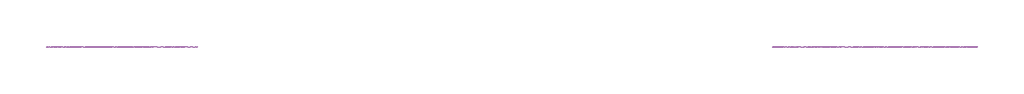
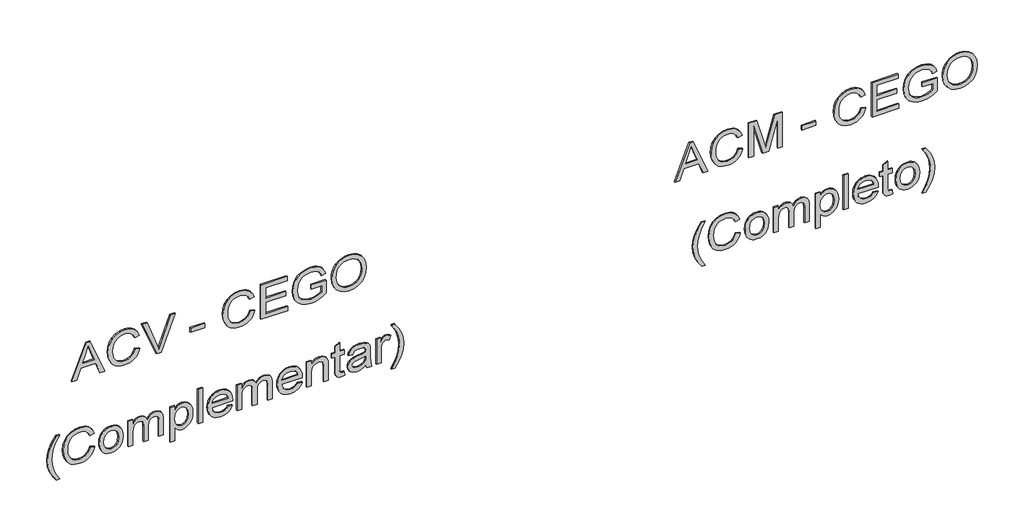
# One storey, part 3 of 12: 2 proxies.
"""IFC4 building model written with IfcOpenShell, lengths in millimetres."""

from ifc_helpers import new_model, si_unit, frame, origin, place, context, project, spatial, polyline, outline, extrude, element, save

model = new_model("IFC4")

# Units and contexts
model_context = context("Model", 3, world=origin())
ifc_project = project(units=[si_unit("LENGTHUNIT", "METRE", prefix="MILLI")], contexts=[model_context])

# Site, building, storey
site = spatial("IfcSite", under=ifc_project)
building = spatial("IfcBuilding", under=site)
storey = spatial("IfcBuildingStorey", under=building, Name="02 - Marelli - Planta Baixa - Painéis Cego", Elevation=12000.0)

# Proxies
placement = place(None, origin())
element("IfcBuildingElementProxy", 1, Name="300mm Arial", ObjectType="300mm Arial", at=placement, inside=storey, context=model_context, shape_type="SweptSolid", body=[
    extrude(outline(polyline([(17965.9244535, 7599.1298393), (17965.9244535, 7638.9346711), (18060.1022443, 7673.3684259), (18060.1022443, 7797.491811), (17965.9244535, 7831.9991422), (17965.9244535, 7871.8039741), (18267.293384, 7751.5065617), (18267.293384, 7719.4272517), (17965.9244535, 7599.1298393)]), holes=[polyline([(18097.7733606, 7687.2007889), (18178.3395176, 7716.7049249), (18229.6222677, 7735.4669067), (18171.8647944, 7756.5833332), (18097.7733606, 7783.7330244), (18097.7733606, 7687.2007889)])]), frame((0.0, 8778.3159498, 0.0), z_axis=(0.0, 1.0, 0.0), x_axis=(0.0, 0.0, 1.0)), (0.0, 0.0, 1.0), 10.0),
    extrude(outline(polyline([(18073.0516905, 8123.9502936), (18040.7884396, 8111.7642025), (18017.5750857, 8091.9813482), (18003.5587816, 8065.7789531), (17998.8866803, 8034.3342395), (18002.3171799, 8007.3592922), (18012.6086787, 7982.3525136), (18029.8347531, 7961.4936045), (18054.0689796, 7946.9622657), (18084.1617268, 7938.4366005), (18118.9633635, 7935.594712), (18147.3822477, 7937.9951421), (18174.9550032, 7945.1964321), (18199.3455795, 7958.3206223), (18218.2179258, 7978.4897527), (18230.3028494, 8005.0692268), (18234.3311572, 8037.4244483), (18230.6983225, 8065.4938445), (18219.7998184, 8088.3393164), (18200.9550632, 8106.1815932), (18173.4834752, 8119.241404), (18182.4597959, 8156.9125203), (18220.278065, 8140.2750571), (18235.6003501, 8128.4729428), (18248.5314022, 8114.3485735), (18258.7999084, 8098.1686635), (18266.1345557, 8080.1999273), (18272.0022735, 8038.8959763), (18267.4681279, 8001.040919), (18253.8656912, 7966.4967996), (18231.526057, 7937.3697427), (18200.7803193, 7915.7658725), (18162.8332915, 7902.3841649), (18118.8897871, 7897.9235957), (18077.2271512, 7901.8691301), (18038.3236302, 7913.7057333), (18005.2326447, 7933.0931145), (17981.0076153, 7959.6909827), (17966.1635768, 7994.3914519), (17961.215564, 8038.0866359), (17962.8503396, 8060.5090435), (17967.7546665, 8081.1288293), (17975.9285445, 8099.9459934), (17987.3719739, 8116.9605357), (18001.9286046, 8131.8367638), (18019.4420868, 8144.2389856), (18039.9124206, 8154.1672009), (18063.3396059, 8161.6214099), (18073.0516905, 8123.9502936)])), frame((0.0, 8778.3159498, 0.0), z_axis=(0.0, 1.0, 0.0), x_axis=(0.0, 0.0, 1.0)), (0.0, 0.0, 1.0), 10.0),
    extrude(outline(polyline([(17965.9244535, 8302.4466376), (17965.9244535, 8341.3685527), (18267.293384, 8456.2213116), (18267.293384, 8415.9014449), (18050.1694304, 8335.4088644), (18001.2411251, 8319.3692094), (18050.1694304, 8303.1088252), (18267.293384, 8222.8369739), (18267.293384, 8182.5171072), (17965.9244535, 8302.4466376)])), frame((0.0, 8778.3159498, 0.0), z_axis=(0.0, 1.0, 0.0), x_axis=(0.0, 0.0, 1.0)), (0.0, 0.0, 1.0), 10.0),
    extrude(outline(polyline([(8703.1437068, 8778.3159498), (8585.4214683, 8778.3159498), (8585.4214683, 8788.3159498), (8703.1437068, 8788.3159498), (8703.1437068, 8778.3159498)])), frame((0.0, 0.0, 18055.3933548), z_axis=(0.0, 0.0, 1.0), x_axis=(1.0, 0.0, 0.0)), (0.0, 0.0, 1.0), 37.6711163),
    extrude(outline(polyline([(18073.0516905, 9079.8548698), (18040.7884396, 9067.6687787), (18017.5750857, 9047.8859245), (18003.5587816, 9021.6835293), (17998.8866803, 8990.2388158), (18002.3171799, 8963.2638685), (18012.6086787, 8938.2570899), (18029.8347531, 8917.3981808), (18054.0689796, 8902.866842), (18084.1617268, 8894.3411767), (18118.9633635, 8891.4992883), (18147.3822477, 8893.8997183), (18174.9550032, 8901.1010084), (18199.3455795, 8914.2251986), (18218.2179258, 8934.3943289), (18230.3028494, 8960.9738031), (18234.3311572, 8993.3290246), (18230.6983225, 9021.3984208), (18219.7998184, 9044.2438927), (18200.9550632, 9062.0861695), (18173.4834752, 9075.1459803), (18182.4597959, 9112.8170966), (18220.278065, 9096.1796334), (18235.6003501, 9084.3775191), (18248.5314022, 9070.2531498), (18258.7999084, 9054.0732398), (18266.1345557, 9036.1045036), (18272.0022735, 8994.8005526), (18267.4681279, 8956.9454952), (18253.8656912, 8922.4013759), (18231.526057, 8893.2743189), (18200.7803193, 8871.6704488), (18162.8332915, 8858.2887412), (18118.8897871, 8853.828172), (18077.2271512, 8857.7737064), (18038.3236302, 8869.6103096), (18005.2326447, 8888.9976907), (17981.0076153, 8915.595559), (17966.1635768, 8950.2960282), (17961.215564, 8993.9912122), (17962.8503396, 9016.4136198), (17967.7546665, 9037.0334056), (17975.9285445, 9055.8505697), (17987.3719739, 9072.8651119), (18001.9286046, 9087.7413401), (18019.4420868, 9100.1435619), (18039.9124206, 9110.0717772), (18063.3396059, 9117.5259861), (18073.0516905, 9079.8548698)])), frame((0.0, 8778.3159498, 0.0), z_axis=(0.0, 1.0, 0.0), x_axis=(0.0, 0.0, 1.0)), (0.0, 0.0, 1.0), 10.0),
    extrude(outline(polyline([(17965.9244535, 9169.3237711), (17965.9244535, 9390.6415794), (18003.5955698, 9390.6415794), (18003.5955698, 9206.9948874), (18102.4822501, 9206.9948874), (18102.4822501, 9376.5149107), (18140.1533665, 9376.5149107), (18140.1533665, 9206.9948874), (18229.6222677, 9206.9948874), (18229.6222677, 9385.9326898), (18267.293384, 9385.9326898), (18267.293384, 9169.3237711), (17965.9244535, 9169.3237711)])), frame((0.0, 8778.3159498, 0.0), z_axis=(0.0, 1.0, 0.0), x_axis=(0.0, 0.0, 1.0)), (0.0, 0.0, 1.0), 10.0),
    extrude(outline(polyline([(18083.646692, 9588.41494), (18083.646692, 9673.1749517), (18029.2001567, 9673.1749517), (18018.55917, 9657.1260996), (18008.5619768, 9635.0255888), (18001.3055044, 9609.5773517), (17998.8866803, 9583.4853212), (18002.0964507, 9553.9352), (18011.7257619, 9526.0589418), (18027.967752, 9502.2385826), (18051.015559, 9484.8561583), (18080.6576508, 9474.2335657), (18116.6824952, 9470.6927015), (18147.4006418, 9473.6357575), (18175.83792, 9482.4649254), (18204.8638094, 9501.8523065), (18216.8015801, 9516.2916748), (18226.2009651, 9534.6673805), (18232.2986092, 9556.89665), (18234.3311572, 9582.89671), (18232.445762, 9605.1075855), (18226.7895763, 9625.2399277), (18217.9971966, 9642.1257113), (18206.7032194, 9654.5969109), (18191.7212251, 9664.023887), (18171.8647944, 9671.7770001), (18181.6504555, 9706.5050604), (18209.4899255, 9696.9125374), (18231.4984659, 9683.7331649), (18248.494614, 9665.9184793), (18261.2969075, 9642.4200169), (18269.325932, 9614.5161675), (18272.0022735, 9583.4853212), (18267.3853545, 9541.21568), (18253.5345974, 9504.1699631), (18230.1832877, 9473.7553191), (18197.0647111, 9451.3788968), (18157.581776, 9437.6109131), (18115.1373908, 9433.0215852), (18072.9965082, 9437.6293072), (18035.0126922, 9451.4524732), (18003.3472495, 9474.3163392), (17980.1614867, 9506.0461612), (17965.9520447, 9544.2415094), (17961.215564, 9586.5019536), (17964.1954082, 9618.847978), (17973.1349406, 9650.4030562), (17987.9789791, 9681.0936116), (18008.6723414, 9710.846068), (18121.3178083, 9710.846068), (18121.3178083, 9588.41494), (18083.646692, 9588.41494)])), frame((0.0, 8778.3159498, 0.0), z_axis=(0.0, 1.0, 0.0), x_axis=(0.0, 0.0, 1.0)), (0.0, 0.0, 1.0), 10.0),
    extrude(outline(polyline([(18112.6357932, 9757.9349633), (18074.0909572, 9762.2391827), (18037.6246544, 9775.1518407), (18005.9316205, 9796.41542), (17981.7065911, 9825.7724033), (17966.3383208, 9861.4201686), (17961.215564, 9901.5560943), (17965.8508771, 9939.3651663), (17979.7568166, 9974.5070939), (18002.6758649, 10004.4710824), (18034.3505046, 10026.7463372), (18072.8125672, 10040.5695032), (18116.093884, 10045.1772252), (18158.8049836, 10040.7994294), (18196.7336173, 10027.6660422), (18228.3530748, 10006.1817337), (18252.1366458, 9976.7511741), (18267.0358666, 9941.3057438), (18272.0022735, 9901.7768235), (18269.3581217, 9871.4863397), (18261.4256662, 9844.1113207), (18248.204907, 9819.6517666), (18229.6958441, 9798.1076772), (18206.5146799, 9780.5321149), (18179.2776166, 9767.9781418), (18147.9846544, 9760.445758), (18112.6357932, 9757.9349633)]), holes=[polyline([(18112.2679112, 9795.6060797), (18142.8044161, 9797.5696498), (18168.6366299, 9803.4603602), (18189.7645528, 9813.278211), (18206.1881846, 9827.023202), (18218.5007351, 9843.4905198), (18227.2954141, 9861.4753509), (18232.5722214, 9880.9776952), (18234.3311572, 9901.9975527), (18230.6799284, 9931.1613978), (18219.726242, 9957.2902165), (18202.1322856, 9978.949269), (18178.5602467, 9994.7038154), (18149.7366924, 10004.3055355), (18116.3881896, 10007.5061089), (18089.8501021, 10005.6368085), (18066.5217851, 10000.0289073), (18046.4032385, 9990.6824054), (18029.4944623, 9977.5973027), (18016.1035577, 9961.6151292), (18006.5386258, 9943.5774152), (18000.7996667, 9923.4841604), (17998.8866803, 9901.3353651), (18000.7812726, 9879.5590502), (18006.4650494, 9859.7003203), (18015.9380108, 9841.7591752), (18029.2001567, 9825.7356151), (18045.759445, 9812.5539433), (18065.1238335, 9803.1384635), (18087.2933223, 9797.4891756), (18112.2679112, 9795.6060797)])]), frame((0.0, 8778.3159498, 0.0), z_axis=(0.0, 1.0, 0.0), x_axis=(0.0, 0.0, 1.0)), (0.0, 0.0, 1.0), 10.0),
    extrude(outline(polyline([(17149.3155348, 7469.4146478), (17149.3155348, 7497.667985), (17197.5540614, 7468.8260366), (17245.8109821, 7448.2246448), (17294.0862969, 7435.8638098), (17342.3800058, 7431.7435314), (17380.2534572, 7434.1163703), (17417.9429677, 7441.2348869), (17475.7740173, 7462.4248898), (17535.4444769, 7497.667985), (17535.4444769, 7469.4146478), (17484.934279, 7434.7233756), (17434.2033518, 7410.4063757), (17389.4137189, 7398.1559053), (17342.600735, 7394.0724151), (17289.2210575, 7399.5354628), (17237.68079, 7415.9246057), (17190.2791949, 7440.2232114), (17149.3155348, 7469.4146478)])), frame((0.0, 8778.3159498, 0.0), z_axis=(0.0, 1.0, 0.0), x_axis=(0.0, 0.0, 1.0)), (0.0, 0.0, 1.0), 10.0),
    extrude(outline(polyline([(17341.2027835, 7751.94802), (17308.9395325, 7739.761929), (17285.7261786, 7719.9790747), (17271.7098746, 7693.7766796), (17267.0377732, 7662.331966), (17270.4682728, 7635.3570187), (17280.7597717, 7610.3502401), (17297.9858461, 7589.491331), (17322.2200725, 7574.9599922), (17352.3128197, 7566.4343269), (17387.1144565, 7563.5924385), (17415.5333406, 7565.9928685), (17443.1060961, 7573.1941586), (17467.4966724, 7586.3183488), (17486.3690188, 7606.4874792), (17498.4539423, 7633.0669533), (17502.4822501, 7665.4221748), (17498.8494154, 7693.491571), (17487.9509113, 7716.3370429), (17469.1061561, 7734.1793197), (17441.6345681, 7747.2391305), (17450.6108888, 7784.9102468), (17488.4291579, 7768.2727836), (17503.751443, 7756.4706693), (17516.6824952, 7742.3463), (17526.9510013, 7726.16639), (17534.2856486, 7708.1976538), (17540.1533665, 7666.8937028), (17535.6192209, 7629.0386455), (17522.0167841, 7594.4945261), (17499.6771499, 7565.3674691), (17468.9314122, 7543.763599), (17430.9843844, 7530.3818914), (17387.0408801, 7525.9213222), (17345.3782441, 7529.8668566), (17306.4747231, 7541.7034598), (17273.3837376, 7561.0908409), (17249.1587083, 7587.6887092), (17234.3146698, 7622.3891784), (17229.3666569, 7666.0843624), (17231.0014325, 7688.50677), (17235.9057594, 7709.1265558), (17244.0796375, 7727.9437199), (17255.5230668, 7744.9582621), (17270.0796975, 7759.8344903), (17287.5931797, 7772.2367121), (17308.0635135, 7782.1649274), (17331.4906988, 7789.6191364), (17341.2027835, 7751.94802)])), frame((0.0, 8778.3159498, 0.0), z_axis=(0.0, 1.0, 0.0), x_axis=(0.0, 0.0, 1.0)), (0.0, 0.0, 1.0), 10.0),
    extrude(outline(polyline([(17344.7344506, 7827.2902527), (17318.4124939, 7828.9986047), (17295.3646869, 7834.1236607), (17275.5910296, 7842.6654208), (17259.0915221, 7854.6238849), (17246.0868936, 7869.350661), (17236.7978732, 7886.1973571), (17231.224461, 7905.1639733), (17229.3666569, 7926.2505094), (17232.7419742, 7952.8391806), (17242.8679261, 7977.2757421), (17259.1007192, 7997.8495427), (17280.7965599, 8012.849931), (17309.767267, 8022.0101927), (17347.8246594, 8025.0636133), (17372.7049786, 8023.3368672), (17394.7388108, 8018.1566288), (17413.9261561, 8009.5228982), (17430.2670145, 7997.4356754), (17443.3199275, 7982.6261259), (17452.6434368, 7965.825415), (17458.2375424, 7947.0335428), (17460.1022443, 7926.2505094), (17458.5709355, 7907.4241483), (17453.9770091, 7890.0877092), (17446.3204651, 7874.2411923), (17435.6013034, 7859.8845974), (17418.830483, 7845.6245716), (17398.095734, 7835.4388389), (17373.3970566, 7829.3273992), (17344.7344506, 7827.2902527)]), holes=[polyline([(17344.808027, 7864.961369), (17378.8830968, 7869.3207706), (17403.1173232, 7882.3989755), (17417.6026768, 7902.0806623), (17422.431128, 7926.2505094), (17417.5842827, 7950.1720361), (17403.0437468, 7969.8445258), (17379.0854319, 7983.0055042), (17345.9852494, 7987.392497), (17311.1468245, 7983.0330953), (17286.535519, 7969.9548904), (17271.9122097, 7950.3099918), (17267.0377732, 7926.2505094), (17271.8846185, 7902.0806623), (17286.4251544, 7882.3989755), (17310.7145631, 7869.3207706), (17344.808027, 7864.961369)])]), frame((0.0, 8778.3159498, 0.0), z_axis=(0.0, 1.0, 0.0), x_axis=(0.0, 0.0, 1.0)), (0.0, 0.0, 1.0), 10.0),
    extrude(outline(polyline([(17234.0755465, 8067.4436191), (17234.0755465, 8105.1147354), (17345.6909438, 8105.1147354), (17371.6082304, 8106.5494752), (17390.6461236, 8110.8536945), (17404.368122, 8118.3584872), (17414.3377241, 8129.3949471), (17420.407777, 8142.7674576), (17422.431128, 8157.2804023), (17419.3961015, 8174.359324), (17410.2910222, 8185.8648334), (17395.0974958, 8192.4039358), (17373.7971282, 8194.5836366), (17234.0755465, 8194.5836366), (17234.0755465, 8232.2547529), (17359.008272, 8232.2547529), (17387.7214617, 8235.94277), (17407.3479662, 8247.006821), (17418.6603375, 8263.6442842), (17422.431128, 8284.0525379), (17420.9596, 8295.6132296), (17416.5450161, 8305.5736346), (17409.7300021, 8313.3175506), (17401.0571841, 8318.2287752), (17369.6032735, 8321.7236542), (17234.0755465, 8321.7236542), (17234.0755465, 8359.3947705), (17385.7900813, 8359.3947705), (17418.7615051, 8355.0813541), (17441.8920855, 8342.1411049), (17455.5497046, 8321.1994223), (17460.1022443, 8292.8817058), (17457.366122, 8273.3563689), (17449.1577549, 8255.7624124), (17435.4771432, 8240.0998365), (17416.3242869, 8226.368641), (17434.7643719, 8218.1648725), (17448.5875379, 8205.6200965), (17457.2235677, 8188.8262834), (17460.1022443, 8167.8754038), (17457.27875, 8148.3224757), (17448.808267, 8131.0136279), (17435.702471, 8116.4455009), (17418.9730372, 8105.1147354), (17455.3933548, 8105.1147354), (17455.3933548, 8067.4436191), (17234.0755465, 8067.4436191)])), frame((0.0, 8778.3159498, 0.0), z_axis=(0.0, 1.0, 0.0), x_axis=(0.0, 0.0, 1.0)), (0.0, 0.0, 1.0), 10.0),
    extrude(outline(polyline([(17149.3155348, 8415.9014449), (17149.3155348, 8453.5725612), (17263.5061061, 8453.5725612), (17249.9956398, 8464.213548), (17239.0419534, 8477.4481027), (17231.785481, 8492.9083436), (17229.3666569, 8510.2263885), (17232.9810975, 8534.6445559), (17243.8244193, 8557.8671069), (17261.4459669, 8577.806311), (17285.3950848, 8592.374438), (17314.2094421, 8601.2863794), (17346.4267078, 8604.2570265), (17376.7217901, 8601.6266702), (17404.4784866, 8593.7356014), (17427.9861461, 8580.6757906), (17445.5341173, 8562.5392082), (17456.4602125, 8540.2639534), (17460.1022443, 8514.7881252), (17457.4994792, 8495.6582615), (17449.6911838, 8479.6186065), (17436.6773583, 8465.8598199), (17418.4580024, 8453.5725612), (17455.3933548, 8453.5725612), (17455.3933548, 8415.9014449), (17149.3155348, 8415.9014449)]), holes=[polyline([(17342.968617, 8453.5725612), (17377.1356573, 8457.9227658), (17402.0872537, 8470.9733796), (17417.3451594, 8489.670982), (17422.431128, 8510.9621525), (17417.6486621, 8532.1705495), (17403.3012642, 8550.1783732), (17379.3521464, 8562.4840259), (17345.7645202, 8566.5859102), (17310.7237602, 8562.3828584), (17286.2412134, 8549.773703), (17271.8386333, 8531.2784357), (17267.0377732, 8509.4170481), (17271.6730864, 8487.9051484), (17285.5790258, 8469.8697336), (17309.1970499, 8457.6468543), (17342.968617, 8453.5725612)])]), frame((0.0, 8778.3159498, 0.0), z_axis=(0.0, 1.0, 0.0), x_axis=(0.0, 0.0, 1.0)), (0.0, 0.0, 1.0), 10.0),
    extrude(outline(polyline([(8684.3081486, 8778.3159498), (8646.6370323, 8778.3159498), (8646.6370323, 8788.3159498), (8684.3081486, 8788.3159498), (8684.3081486, 8778.3159498)])), frame((0.0, 0.0, 17234.0755465), z_axis=(0.0, 0.0, 1.0), x_axis=(1.0, 0.0, 0.0)), (0.0, 0.0, 1.0), 301.3689304),
    extrude(outline(polyline([(17300.0, 8895.7667195), (17285.1191733, 8885.2085062), (17274.9104479, 8871.4865078), (17269.0059419, 8854.6007242), (17267.0377732, 8834.5511555), (17271.2868103, 8807.8889079), (17284.0339214, 8786.0275203), (17304.7640718, 8770.8799791), (17332.9622268, 8764.3592708), (17332.9622268, 8933.658565), (17343.1157698, 8933.8792942), (17369.3687487, 8932.0927672), (17392.5039277, 8926.7331864), (17412.5213067, 8917.8005517), (17429.4208859, 8905.2948631), (17442.8439802, 8889.9748773), (17452.4319047, 8872.5993508), (17458.1846594, 8853.1682837), (17460.1022443, 8831.6816759), (17458.1800609, 8809.4799975), (17452.4135106, 8789.4488228), (17442.8025935, 8771.588152), (17429.3473095, 8755.8979849), (17412.4109422, 8743.1186841), (17392.3567749, 8733.9906121), (17369.1848077, 8728.5137689), (17342.8950406, 8726.6881545), (17317.467497, 8728.4953748), (17295.0427901, 8733.9170357), (17275.62092, 8742.9531372), (17259.2018867, 8755.6036793), (17246.1489737, 8771.3352331), (17236.8254644, 8789.6143697), (17231.2313588, 8810.4410892), (17229.3666569, 8833.8153915), (17233.6892704, 8869.4723538), (17246.6571107, 8898.1579524), (17267.4608375, 8919.3939406), (17295.2911105, 8932.7020718), (17300.0, 8895.7667195)]), holes=[polyline([(17370.6333431, 8764.3592708), (17391.8693312, 8770.5488853), (17408.3412476, 8785.1446035), (17418.9086579, 8806.1414684), (17422.431128, 8831.5345231), (17418.0165441, 8859.1624609), (17404.7727922, 8881.125016), (17390.535759, 8891.1130122), (17370.6333431, 8896.2081778), (17370.6333431, 8764.3592708)])]), frame((0.0, 8778.3159498, 0.0), z_axis=(0.0, 1.0, 0.0), x_axis=(0.0, 0.0, 1.0)), (0.0, 0.0, 1.0), 10.0),
    extrude(outline(polyline([(17234.0755465, 8971.5504105), (17234.0755465, 9009.2215268), (17345.6909438, 9009.2215268), (17371.6082304, 9010.6562665), (17390.6461236, 9014.9604859), (17404.368122, 9022.4652786), (17414.3377241, 9033.5017384), (17420.407777, 9046.874249), (17422.431128, 9061.3871937), (17419.3961015, 9078.4661153), (17410.2910222, 9089.9716247), (17395.0974958, 9096.5107272), (17373.7971282, 9098.690428), (17234.0755465, 9098.690428), (17234.0755465, 9136.3615443), (17359.008272, 9136.3615443), (17387.7214617, 9140.0495613), (17407.3479662, 9151.1136123), (17418.6603375, 9167.7510755), (17422.431128, 9188.1593292), (17420.9596, 9199.7200209), (17416.5450161, 9209.6804259), (17409.7300021, 9217.4243419), (17401.0571841, 9222.3355666), (17369.6032735, 9225.8304455), (17234.0755465, 9225.8304455), (17234.0755465, 9263.5015618), (17385.7900813, 9263.5015618), (17418.7615051, 9259.1881454), (17441.8920855, 9246.2478963), (17455.5497046, 9225.3062137), (17460.1022443, 9196.9884971), (17457.366122, 9177.4631602), (17449.1577549, 9159.8692038), (17435.4771432, 9144.2066278), (17416.3242869, 9130.4754324), (17434.7643719, 9122.2716639), (17448.5875379, 9109.7268878), (17457.2235677, 9092.9330748), (17460.1022443, 9071.9821951), (17457.27875, 9052.4292671), (17448.808267, 9035.1204192), (17435.702471, 9020.5522922), (17418.9730372, 9009.2215268), (17455.3933548, 9009.2215268), (17455.3933548, 8971.5504105), (17234.0755465, 8971.5504105)])), frame((0.0, 8778.3159498, 0.0), z_axis=(0.0, 1.0, 0.0), x_axis=(0.0, 0.0, 1.0)), (0.0, 0.0, 1.0), 10.0),
    extrude(outline(polyline([(17300.0, 9474.9601327), (17285.1191733, 9464.4019194), (17274.9104479, 9450.679921), (17269.0059419, 9433.7941374), (17267.0377732, 9413.7445687), (17271.2868103, 9387.0823211), (17284.0339214, 9365.2209335), (17304.7640718, 9350.0733923), (17332.9622268, 9343.552684), (17332.9622268, 9512.8519782), (17343.1157698, 9513.0727074), (17369.3687487, 9511.2861804), (17392.5039277, 9505.9265996), (17412.5213067, 9496.9939649), (17429.4208859, 9484.4882763), (17442.8439802, 9469.1682905), (17452.4319047, 9451.792764), (17458.1846594, 9432.3616969), (17460.1022443, 9410.8750891), (17458.1800609, 9388.6734107), (17452.4135106, 9368.6422361), (17442.8025935, 9350.7815652), (17429.3473095, 9335.0913981), (17412.4109422, 9322.3120973), (17392.3567749, 9313.1840253), (17369.1848077, 9307.7071821), (17342.8950406, 9305.8815677), (17317.467497, 9307.688788), (17295.0427901, 9313.1104489), (17275.62092, 9322.1465504), (17259.2018867, 9334.7970925), (17246.1489737, 9350.5286463), (17236.8254644, 9368.8077829), (17231.2313588, 9389.6345024), (17229.3666569, 9413.0088047), (17233.6892704, 9448.6657671), (17246.6571107, 9477.3513656), (17267.4608375, 9498.5873538), (17295.2911105, 9511.895485), (17300.0, 9474.9601327)]), holes=[polyline([(17370.6333431, 9343.552684), (17391.8693312, 9349.7422985), (17408.3412476, 9364.3380167), (17418.9086579, 9385.3348816), (17422.431128, 9410.7279363), (17418.0165441, 9438.3558741), (17404.7727922, 9460.3184292), (17390.535759, 9470.3064254), (17370.6333431, 9475.4015911), (17370.6333431, 9343.552684)])]), frame((0.0, 8778.3159498, 0.0), z_axis=(0.0, 1.0, 0.0), x_axis=(0.0, 0.0, 1.0)), (0.0, 0.0, 1.0), 10.0),
    extrude(outline(polyline([(17234.0755465, 9550.7438237), (17234.0755465, 9588.41494), (17351.5034793, 9588.41494), (17386.2131456, 9592.7099623), (17398.5877762, 9598.0787401), (17407.6422718, 9605.5950291), (17418.7339139, 9624.4029961), (17422.431128, 9646.4667188), (17420.7848561, 9660.3634612), (17415.8460403, 9672.3288231), (17408.1481095, 9681.6638287), (17398.2244927, 9687.6695023), (17364.8943839, 9692.0105098), (17234.0755465, 9692.0105098), (17234.0755465, 9729.6816261), (17369.9711555, 9729.6816261), (17406.391473, 9727.6950633), (17434.0929872, 9716.4010861), (17444.6328064, 9706.3027253), (17452.9285454, 9692.1208744), (17458.3088196, 9675.1155292), (17460.1022443, 9656.5466855), (17457.8765582, 9635.5682147), (17451.1995, 9617.2201002), (17440.0710697, 9601.5023419), (17424.4912672, 9588.41494), (17455.3933548, 9588.41494), (17455.3933548, 9550.7438237), (17234.0755465, 9550.7438237)])), frame((0.0, 8778.3159498, 0.0), z_axis=(0.0, 1.0, 0.0), x_axis=(0.0, 0.0, 1.0)), (0.0, 0.0, 1.0), 10.0),
    extrude(outline(polyline([(17265.4926689, 9861.5305332), (17267.0377732, 9845.1229962), (17269.576159, 9832.2839146), (17276.4555523, 9825.8459797), (17295.8797217, 9823.8594169), (17417.7222385, 9823.8594169), (17417.7222385, 9861.5305332), (17455.3933548, 9861.5305332), (17455.3933548, 9823.8594169), (17531.3241986, 9823.8594169), (17509.1777025, 9786.1883006), (17455.3933548, 9786.1883006), (17455.3933548, 9757.9349633), (17417.7222385, 9757.9349633), (17417.7222385, 9786.1883006), (17294.7760757, 9786.1883006), (17267.7919313, 9787.3287348), (17252.0281878, 9790.7500373), (17242.849532, 9796.967243), (17235.6206508, 9806.4953867), (17230.9301554, 9819.9782618), (17229.3666569, 9838.0596619), (17232.9719005, 9866.2394227), (17265.4926689, 9861.5305332)])), frame((0.0, 8778.3159498, 0.0), z_axis=(0.0, 1.0, 0.0), x_axis=(0.0, 0.0, 1.0)), (0.0, 0.0, 1.0), 10.0),
    extrude(outline(polyline([(17262.3288837, 10040.4683356), (17234.0755465, 10049.8861147), (17234.0755465, 10087.557231), (17265.7501862, 10080.0524383), (17331.1963932, 10078.1394519), (17378.0645594, 10078.1394519), (17411.0267861, 10076.300042), (17425.1442577, 10071.7566993), (17436.5945848, 10064.7485473), (17445.856014, 10054.181137), (17453.406792, 10038.9600195), (17458.4283812, 10018.772495), (17460.1022443, 9993.3058639), (17458.207652, 9966.7539809), (17452.5238752, 9943.6050063), (17443.3452194, 9924.6774777), (17430.9659903, 9910.7899323), (17414.7791825, 9901.0318624), (17394.1777908, 9894.49276), (17389.4689012, 9932.1638763), (17405.1314772, 9939.6502749), (17415.1838527, 9950.3372468), (17420.6193092, 9966.0090198), (17422.431128, 9988.4498215), (17419.7088012, 10012.693245), (17411.5418209, 10030.0940634), (17400.5421493, 10037.8747676), (17383.7299421, 10040.4683356), (17375.3422326, 10040.2476064), (17368.3524747, 10013.429009), (17362.3927864, 9974.9117641), (17356.7274037, 9942.3174193), (17344.3665686, 9915.9402803), (17334.8752131, 9905.3360818), (17322.7351073, 9896.9943575), (17308.5532564, 9891.5864922), (17292.9366657, 9889.7838704), (17267.6079903, 9894.5571393), (17247.2457219, 9908.876946), (17233.8364232, 9932.0994969), (17229.3666569, 9963.5809987), (17231.224461, 9984.4491048), (17236.7978732, 10003.9376535), (17246.896234, 10022.469709), (17262.3288837, 10040.4683356)]), holes=[polyline([(17337.6711163, 10040.4683356), (17327.0025384, 10040.2476064), (17310.0799667, 10038.7576844), (17297.8662844, 10034.2879181), (17286.0112871, 10024.2079515), (17276.0508821, 10009.7134008), (17269.2910505, 9991.8343359), (17267.0377732, 9971.6008261), (17269.0795183, 9952.5169476), (17275.2047535, 9938.6753876), (17284.3834093, 9930.2600869), (17295.5854161, 9927.4549867), (17310.0799667, 9932.6053347), (17320.0127805, 9947.2838263), (17326.1196217, 9979.69423), (17337.6711163, 10040.4683356)])]), frame((0.0, 8778.3159498, 0.0), z_axis=(0.0, 1.0, 0.0), x_axis=(0.0, 0.0, 1.0)), (0.0, 0.0, 1.0), 10.0),
    extrude(outline(polyline([(17234.0755465, 10129.9372369), (17234.0755465, 10167.6083532), (17350.3998333, 10167.6083532), (17373.3556698, 10169.1350635), (17394.39852, 10173.7151943), (17406.1339556, 10179.1690449), (17414.9999117, 10187.2900399), (17420.5733239, 10197.3424154), (17422.431128, 10208.5904074), (17420.4997475, 10221.8341593), (17414.7056061, 10235.0779111), (17448.4771733, 10247.6594753), (17457.1959765, 10228.603188), (17460.1022443, 10209.8412062), (17458.2812284, 10197.5539476), (17452.8181808, 10186.2967585), (17441.6345681, 10175.0763577), (17422.6518572, 10162.8994636), (17455.3933548, 10162.8994636), (17455.3933548, 10129.9372369), (17234.0755465, 10129.9372369)])), frame((0.0, 8778.3159498, 0.0), z_axis=(0.0, 1.0, 0.0), x_axis=(0.0, 0.0, 1.0)), (0.0, 0.0, 1.0), 10.0),
    extrude(outline(polyline([(17149.3155348, 10280.6217021), (17190.2791949, 10309.6751827), (17237.68079, 10334.0013796), (17289.2210575, 10350.4732959), (17342.600735, 10355.9639347), (17389.4137189, 10351.8804446), (17434.2033518, 10339.6299741), (17484.934279, 10315.3129742), (17535.4444769, 10280.6217021), (17535.4444769, 10252.3683649), (17475.1854061, 10287.8321892), (17446.8400984, 10299.8067481), (17417.2807801, 10308.8014629), (17379.9775458, 10315.9199795), (17342.3800058, 10318.2928184), (17294.0862969, 10314.1725401), (17245.8109821, 10301.811705), (17197.5540614, 10281.2103133), (17149.3155348, 10252.3683649), (17149.3155348, 10280.6217021)])), frame((0.0, 8778.3159498, 0.0), z_axis=(0.0, 1.0, 0.0), x_axis=(0.0, 0.0, 1.0)), (0.0, 0.0, 1.0), 10.0),
])
element("IfcBuildingElementProxy", 2, Name="300mm Arial", ObjectType="300mm Arial", at=placement, inside=storey, context=model_context, shape_type="SweptSolid", body=[
    extrude(outline(polyline([(17965.9244535, 12608.5476183), (17965.9244535, 12648.3524502), (18060.1022443, 12682.786205), (18060.1022443, 12806.9095901), (17965.9244535, 12841.4169213), (17965.9244535, 12881.2217532), (18267.293384, 12760.9243407), (18267.293384, 12728.8450307), (17965.9244535, 12608.5476183)]), holes=[polyline([(18097.7733606, 12696.618568), (18178.3395176, 12726.122704), (18229.6222677, 12744.8846857), (18171.8647944, 12766.0011123), (18097.7733606, 12793.1508035), (18097.7733606, 12696.618568)])]), frame((0.0, 8778.3159498, 0.0), z_axis=(0.0, 1.0, 0.0), x_axis=(0.0, 0.0, 1.0)), (0.0, 0.0, 1.0), 10.0),
    extrude(outline(polyline([(18073.0516905, 13133.3680726), (18040.7884396, 13121.1819816), (18017.5750857, 13101.3991273), (18003.5587816, 13075.1967322), (17998.8866803, 13043.7520186), (18002.3171799, 13016.7770713), (18012.6086787, 12991.7702927), (18029.8347531, 12970.9113836), (18054.0689796, 12956.3800448), (18084.1617268, 12947.8543795), (18118.9633635, 12945.0124911), (18147.3822477, 12947.4129211), (18174.9550032, 12954.6142112), (18199.3455795, 12967.7384014), (18218.2179258, 12987.9075318), (18230.3028494, 13014.4870059), (18234.3311572, 13046.8422274), (18230.6983225, 13074.9116236), (18219.7998184, 13097.7570955), (18200.9550632, 13115.5993723), (18173.4834752, 13128.6591831), (18182.4597959, 13166.3302994), (18220.278065, 13149.6928362), (18235.6003501, 13137.8907219), (18248.5314022, 13123.7663526), (18258.7999084, 13107.5864426), (18266.1345557, 13089.6177064), (18272.0022735, 13048.3137554), (18267.4681279, 13010.4586981), (18253.8656912, 12975.9145787), (18231.526057, 12946.7875217), (18200.7803193, 12925.1836516), (18162.8332915, 12911.801944), (18118.8897871, 12907.3413748), (18077.2271512, 12911.2869092), (18038.3236302, 12923.1235124), (18005.2326447, 12942.5108935), (17981.0076153, 12969.1087618), (17966.1635768, 13003.809231), (17961.215564, 13047.504415), (17962.8503396, 13069.9268226), (17967.7546665, 13090.5466084), (17975.9285445, 13109.3637725), (17987.3719739, 13126.3783147), (18001.9286046, 13141.2545429), (18019.4420868, 13153.6567647), (18039.9124206, 13163.58498), (18063.3396059, 13171.039189), (18073.0516905, 13133.3680726)])), frame((0.0, 8778.3159498, 0.0), z_axis=(0.0, 1.0, 0.0), x_axis=(0.0, 0.0, 1.0)), (0.0, 0.0, 1.0), 10.0),
    extrude(outline(polyline([(17965.9244535, 13222.8369739), (17965.9244535, 13260.5080902), (18229.6222677, 13260.5080902), (17965.9244535, 13336.2182048), (17965.9244535, 13387.2802257), (18229.6222677, 13462.9903403), (17965.9244535, 13462.9903403), (17965.9244535, 13500.6614566), (18267.293384, 13500.6614566), (18267.293384, 13435.8406491), (18058.5571399, 13375.2136963), (18010.5117514, 13361.7492153), (18054.87832, 13349.3148038), (18267.293384, 13287.6577814), (18267.293384, 13222.8369739), (17965.9244535, 13222.8369739)])), frame((0.0, 8778.3159498, 0.0), z_axis=(0.0, 1.0, 0.0), x_axis=(0.0, 0.0, 1.0)), (0.0, 0.0, 1.0), 10.0),
    extrude(outline(polyline([(13778.4859394, 8778.3159498), (13660.7637009, 8778.3159498), (13660.7637009, 8788.3159498), (13778.4859394, 8788.3159498), (13778.4859394, 8778.3159498)])), frame((0.0, 0.0, 18055.3933548), z_axis=(0.0, 0.0, 1.0), x_axis=(1.0, 0.0, 0.0)), (0.0, 0.0, 1.0), 37.6711163),
    extrude(outline(polyline([(18073.0516905, 14155.1971024), (18040.7884396, 14143.0110114), (18017.5750857, 14123.2281571), (18003.5587816, 14097.025762), (17998.8866803, 14065.5810484), (18002.3171799, 14038.6061011), (18012.6086787, 14013.5993225), (18029.8347531, 13992.7404134), (18054.0689796, 13978.2090746), (18084.1617268, 13969.6834093), (18118.9633635, 13966.8415209), (18147.3822477, 13969.2419509), (18174.9550032, 13976.443241), (18199.3455795, 13989.5674312), (18218.2179258, 14009.7365616), (18230.3028494, 14036.3160357), (18234.3311572, 14068.6712572), (18230.6983225, 14096.7406534), (18219.7998184, 14119.5861253), (18200.9550632, 14137.4284021), (18173.4834752, 14150.4882129), (18182.4597959, 14188.1593292), (18220.278065, 14171.521866), (18235.6003501, 14159.7197517), (18248.5314022, 14145.5953824), (18258.7999084, 14129.4154724), (18266.1345557, 14111.4467362), (18272.0022735, 14070.1427852), (18267.4681279, 14032.2877279), (18253.8656912, 13997.7436085), (18231.526057, 13968.6165515), (18200.7803193, 13947.0126814), (18162.8332915, 13933.6309738), (18118.8897871, 13929.1704046), (18077.2271512, 13933.115939), (18038.3236302, 13944.9525422), (18005.2326447, 13964.3399234), (17981.0076153, 13990.9377916), (17966.1635768, 14025.6382608), (17961.215564, 14069.3334448), (17962.8503396, 14091.7558524), (17967.7546665, 14112.3756382), (17975.9285445, 14131.1928023), (17987.3719739, 14148.2073445), (18001.9286046, 14163.0835727), (18019.4420868, 14175.4857945), (18039.9124206, 14185.4140098), (18063.3396059, 14192.8682188), (18073.0516905, 14155.1971024)])), frame((0.0, 8778.3159498, 0.0), z_axis=(0.0, 1.0, 0.0), x_axis=(0.0, 0.0, 1.0)), (0.0, 0.0, 1.0), 10.0),
    extrude(outline(polyline([(17965.9244535, 14244.6660037), (17965.9244535, 14465.983812), (18003.5955698, 14465.983812), (18003.5955698, 14282.33712), (18102.4822501, 14282.33712), (18102.4822501, 14451.8571434), (18140.1533665, 14451.8571434), (18140.1533665, 14282.33712), (18229.6222677, 14282.33712), (18229.6222677, 14461.2749224), (18267.293384, 14461.2749224), (18267.293384, 14244.6660037), (17965.9244535, 14244.6660037)])), frame((0.0, 8778.3159498, 0.0), z_axis=(0.0, 1.0, 0.0), x_axis=(0.0, 0.0, 1.0)), (0.0, 0.0, 1.0), 10.0),
    extrude(outline(polyline([(18083.646692, 14663.7571726), (18083.646692, 14748.5171843), (18029.2001567, 14748.5171843), (18018.55917, 14732.4683322), (18008.5619768, 14710.3678214), (18001.3055044, 14684.9195844), (17998.8866803, 14658.8275538), (18002.0964507, 14629.2774326), (18011.7257619, 14601.4011744), (18027.967752, 14577.5808152), (18051.015559, 14560.1983909), (18080.6576508, 14549.5757983), (18116.6824952, 14546.0349341), (18147.4006418, 14548.9779901), (18175.83792, 14557.807158), (18204.8638094, 14577.1945391), (18216.8015801, 14591.6339074), (18226.2009651, 14610.0096131), (18232.2986092, 14632.2388826), (18234.3311572, 14658.2389427), (18232.445762, 14680.4498181), (18226.7895763, 14700.5821603), (18217.9971966, 14717.4679439), (18206.7032194, 14729.9391435), (18191.7212251, 14739.3661196), (18171.8647944, 14747.1192327), (18181.6504555, 14781.847293), (18209.4899255, 14772.25477), (18231.4984659, 14759.0753975), (18248.494614, 14741.2607119), (18261.2969075, 14717.7622495), (18269.325932, 14689.8584001), (18272.0022735, 14658.8275538), (18267.3853545, 14616.5579126), (18253.5345974, 14579.5121957), (18230.1832877, 14549.0975517), (18197.0647111, 14526.7211294), (18157.581776, 14512.9531457), (18115.1373908, 14508.3638178), (18072.9965082, 14512.9715398), (18035.0126922, 14526.7947058), (18003.3472495, 14549.6585718), (17980.1614867, 14581.3883939), (17965.9520447, 14619.583742), (17961.215564, 14661.8441862), (17964.1954082, 14694.1902106), (17973.1349406, 14725.7452888), (17987.9789791, 14756.4358442), (18008.6723414, 14786.1883006), (18121.3178083, 14786.1883006), (18121.3178083, 14663.7571726), (18083.646692, 14663.7571726)])), frame((0.0, 8778.3159498, 0.0), z_axis=(0.0, 1.0, 0.0), x_axis=(0.0, 0.0, 1.0)), (0.0, 0.0, 1.0), 10.0),
    extrude(outline(polyline([(18112.6357932, 14833.277196), (18074.0909572, 14837.5814153), (18037.6246544, 14850.4940733), (18005.9316205, 14871.7576527), (17981.7065911, 14901.1146359), (17966.3383208, 14936.7624012), (17961.215564, 14976.8983269), (17965.8508771, 15014.7073989), (17979.7568166, 15049.8493265), (18002.6758649, 15079.813315), (18034.3505046, 15102.0885698), (18072.8125672, 15115.9117358), (18116.093884, 15120.5194578), (18158.8049836, 15116.1416621), (18196.7336173, 15103.0082748), (18228.3530748, 15081.5239663), (18252.1366458, 15052.0934067), (18267.0358666, 15016.6479765), (18272.0022735, 14977.1190561), (18269.3581217, 14946.8285723), (18261.4256662, 14919.4535533), (18248.204907, 14894.9939992), (18229.6958441, 14873.4499098), (18206.5146799, 14855.8743475), (18179.2776166, 14843.3203744), (18147.9846544, 14835.7879906), (18112.6357932, 14833.277196)]), holes=[polyline([(18112.2679112, 14870.9483123), (18142.8044161, 14872.9118824), (18168.6366299, 14878.8025929), (18189.7645528, 14888.6204436), (18206.1881846, 14902.3654347), (18218.5007351, 14918.8327525), (18227.2954141, 14936.8175835), (18232.5722214, 14956.3199278), (18234.3311572, 14977.3397853), (18230.6799284, 15006.5036304), (18219.726242, 15032.6324491), (18202.1322856, 15054.2915016), (18178.5602467, 15070.0460481), (18149.7366924, 15079.6477681), (18116.3881896, 15082.8483415), (18089.8501021, 15080.9790411), (18066.5217851, 15075.3711399), (18046.4032385, 15066.024638), (18029.4944623, 15052.9395353), (18016.1035577, 15036.9573619), (18006.5386258, 15018.9196478), (18000.7996667, 14998.8263931), (17998.8866803, 14976.6775977), (18000.7812726, 14954.9012828), (18006.4650494, 14935.0425529), (18015.9380108, 14917.1014078), (18029.2001567, 14901.0778477), (18045.759445, 14887.8961759), (18065.1238335, 14878.4806961), (18087.2933223, 14872.8314082), (18112.2679112, 14870.9483123)])]), frame((0.0, 8778.3159498, 0.0), z_axis=(0.0, 1.0, 0.0), x_axis=(0.0, 0.0, 1.0)), (0.0, 0.0, 1.0), 10.0),
    extrude(outline(polyline([(17149.3155348, 12831.9991422), (17149.3155348, 12860.2524794), (17197.5540614, 12831.410531), (17245.8109821, 12810.8091393), (17294.0862969, 12798.4483042), (17342.3800058, 12794.3280259), (17380.2534572, 12796.7008648), (17417.9429677, 12803.8193814), (17475.7740173, 12825.0093843), (17535.4444769, 12860.2524794), (17535.4444769, 12831.9991422), (17484.934279, 12797.3078701), (17434.2033518, 12772.9908702), (17389.4137189, 12760.7403997), (17342.600735, 12756.6569096), (17289.2210575, 12762.1199572), (17237.68079, 12778.5091001), (17190.2791949, 12802.8077059), (17149.3155348, 12831.9991422)])), frame((0.0, 8778.3159498, 0.0), z_axis=(0.0, 1.0, 0.0), x_axis=(0.0, 0.0, 1.0)), (0.0, 0.0, 1.0), 10.0),
    extrude(outline(polyline([(17341.2027835, 13114.5325145), (17308.9395325, 13102.3464234), (17285.7261786, 13082.5635691), (17271.7098746, 13056.361174), (17267.0377732, 13024.9164605), (17270.4682728, 12997.9415132), (17280.7597717, 12972.9347345), (17297.9858461, 12952.0758254), (17322.2200725, 12937.5444866), (17352.3128197, 12929.0188214), (17387.1144565, 12926.176933), (17415.5333406, 12928.577363), (17443.1060961, 12935.778653), (17467.4966724, 12948.9028432), (17486.3690188, 12969.0719736), (17498.4539423, 12995.6514478), (17502.4822501, 13028.0066692), (17498.8494154, 13056.0760655), (17487.9509113, 13078.9215374), (17469.1061561, 13096.7638141), (17441.6345681, 13109.823625), (17450.6108888, 13147.4947413), (17488.4291579, 13130.857278), (17503.751443, 13119.0551638), (17516.6824952, 13104.9307944), (17526.9510013, 13088.7508844), (17534.2856486, 13070.7821482), (17540.1533665, 13029.4781972), (17535.6192209, 12991.6231399), (17522.0167841, 12957.0790206), (17499.6771499, 12927.9519636), (17468.9314122, 12906.3480934), (17430.9843844, 12892.9663858), (17387.0408801, 12888.5058167), (17345.3782441, 12892.4513511), (17306.4747231, 12904.2879542), (17273.3837376, 12923.6753354), (17249.1587083, 12950.2732036), (17234.3146698, 12984.9736728), (17229.3666569, 13028.6688568), (17231.0014325, 13051.0912644), (17235.9057594, 13071.7110503), (17244.0796375, 13090.5282143), (17255.5230668, 13107.5427566), (17270.0796975, 13122.4189848), (17287.5931797, 13134.8212065), (17308.0635135, 13144.7494219), (17331.4906988, 13152.2036308), (17341.2027835, 13114.5325145)])), frame((0.0, 8778.3159498, 0.0), z_axis=(0.0, 1.0, 0.0), x_axis=(0.0, 0.0, 1.0)), (0.0, 0.0, 1.0), 10.0),
    extrude(outline(polyline([(17344.7344506, 13189.8747471), (17318.4124939, 13191.5830991), (17295.3646869, 13196.7081552), (17275.5910296, 13205.2499152), (17259.0915221, 13217.2083793), (17246.0868936, 13231.9351555), (17236.7978732, 13248.7818516), (17231.224461, 13267.7484677), (17229.3666569, 13288.8350038), (17232.7419742, 13315.423675), (17242.8679261, 13339.8602365), (17259.1007192, 13360.4340371), (17280.7965599, 13375.4344255), (17309.767267, 13384.5946872), (17347.8246594, 13387.6481077), (17372.7049786, 13385.9213616), (17394.7388108, 13380.7411233), (17413.9261561, 13372.1073927), (17430.2670145, 13360.0201699), (17443.3199275, 13345.2106203), (17452.6434368, 13328.4099094), (17458.2375424, 13309.6180373), (17460.1022443, 13288.8350038), (17458.5709355, 13270.0086427), (17453.9770091, 13252.6722037), (17446.3204651, 13236.8256867), (17435.6013034, 13222.4690919), (17418.830483, 13208.209066), (17398.095734, 13198.0233333), (17373.3970566, 13191.9118937), (17344.7344506, 13189.8747471)]), holes=[polyline([(17344.808027, 13227.5458634), (17378.8830968, 13231.9052651), (17403.1173232, 13244.98347), (17417.6026768, 13264.6651567), (17422.431128, 13288.8350038), (17417.5842827, 13312.7565305), (17403.0437468, 13332.4290202), (17379.0854319, 13345.5899986), (17345.9852494, 13349.9769914), (17311.1468245, 13345.6175898), (17286.535519, 13332.5393848), (17271.9122097, 13312.8944863), (17267.0377732, 13288.8350038), (17271.8846185, 13264.6651567), (17286.4251544, 13244.98347), (17310.7145631, 13231.9052651), (17344.808027, 13227.5458634)])]), frame((0.0, 8778.3159498, 0.0), z_axis=(0.0, 1.0, 0.0), x_axis=(0.0, 0.0, 1.0)), (0.0, 0.0, 1.0), 10.0),
    extrude(outline(polyline([(17234.0755465, 13430.0281136), (17234.0755465, 13467.6992299), (17345.6909438, 13467.6992299), (17371.6082304, 13469.1339696), (17390.6461236, 13473.438189), (17404.368122, 13480.9429817), (17414.3377241, 13491.9794415), (17420.407777, 13505.3519521), (17422.431128, 13519.8648968), (17419.3961015, 13536.9438184), (17410.2910222, 13548.4493278), (17395.0974958, 13554.9884303), (17373.7971282, 13557.1681311), (17234.0755465, 13557.1681311), (17234.0755465, 13594.8392474), (17359.008272, 13594.8392474), (17387.7214617, 13598.5272644), (17407.3479662, 13609.5913154), (17418.6603375, 13626.2287786), (17422.431128, 13646.6370323), (17420.9596, 13658.197724), (17416.5450161, 13668.158129), (17409.7300021, 13675.902045), (17401.0571841, 13680.8132697), (17369.6032735, 13684.3081486), (17234.0755465, 13684.3081486), (17234.0755465, 13721.9792649), (17385.7900813, 13721.9792649), (17418.7615051, 13717.6658485), (17441.8920855, 13704.7255994), (17455.5497046, 13683.7839168), (17460.1022443, 13655.4662002), (17457.366122, 13635.9408633), (17449.1577549, 13618.3469069), (17435.4771432, 13602.6843309), (17416.3242869, 13588.9531355), (17434.7643719, 13580.749367), (17448.5875379, 13568.2045909), (17457.2235677, 13551.4107779), (17460.1022443, 13530.4598982), (17457.27875, 13510.9069702), (17448.808267, 13493.5981223), (17435.702471, 13479.0299953), (17418.9730372, 13467.6992299), (17455.3933548, 13467.6992299), (17455.3933548, 13430.0281136), (17234.0755465, 13430.0281136)])), frame((0.0, 8778.3159498, 0.0), z_axis=(0.0, 1.0, 0.0), x_axis=(0.0, 0.0, 1.0)), (0.0, 0.0, 1.0), 10.0),
    extrude(outline(polyline([(17149.3155348, 13778.4859394), (17149.3155348, 13816.1570557), (17263.5061061, 13816.1570557), (17249.9956398, 13826.7980424), (17239.0419534, 13840.0325972), (17231.785481, 13855.492838), (17229.3666569, 13872.810883), (17232.9810975, 13897.2290504), (17243.8244193, 13920.4516013), (17261.4459669, 13940.3908055), (17285.3950848, 13954.9589325), (17314.2094421, 13963.8708738), (17346.4267078, 13966.8415209), (17376.7217901, 13964.2111647), (17404.4784866, 13956.3200959), (17427.9861461, 13943.260285), (17445.5341173, 13925.1237027), (17456.4602125, 13902.8484479), (17460.1022443, 13877.3726197), (17457.4994792, 13858.2427559), (17449.6911838, 13842.203101), (17436.6773583, 13828.4443143), (17418.4580024, 13816.1570557), (17455.3933548, 13816.1570557), (17455.3933548, 13778.4859394), (17149.3155348, 13778.4859394)]), holes=[polyline([(17342.968617, 13816.1570557), (17377.1356573, 13820.5072603), (17402.0872537, 13833.5578741), (17417.3451594, 13852.2554765), (17422.431128, 13873.5466469), (17417.6486621, 13894.755044), (17403.3012642, 13912.7628676), (17379.3521464, 13925.0685204), (17345.7645202, 13929.1704046), (17310.7237602, 13924.9673528), (17286.2412134, 13912.3581974), (17271.8386333, 13893.8629301), (17267.0377732, 13872.0015426), (17271.6730864, 13850.4896429), (17285.5790258, 13832.4542281), (17309.1970499, 13820.2313488), (17342.968617, 13816.1570557)])]), frame((0.0, 8778.3159498, 0.0), z_axis=(0.0, 1.0, 0.0), x_axis=(0.0, 0.0, 1.0)), (0.0, 0.0, 1.0), 10.0),
    extrude(outline(polyline([(14046.8926431, 8778.3159498), (14009.2215268, 8778.3159498), (14009.2215268, 8788.3159498), (14046.8926431, 8788.3159498), (14046.8926431, 8778.3159498)])), frame((0.0, 0.0, 17234.0755465), z_axis=(0.0, 0.0, 1.0), x_axis=(1.0, 0.0, 0.0)), (0.0, 0.0, 1.0), 301.3689304),
    extrude(outline(polyline([(17300.0, 14258.3512139), (17285.1191733, 14247.7930006), (17274.9104479, 14234.0710022), (17269.0059419, 14217.1852186), (17267.0377732, 14197.1356499), (17271.2868103, 14170.4734023), (17284.0339214, 14148.6120147), (17304.7640718, 14133.4644736), (17332.9622268, 14126.9437652), (17332.9622268, 14296.2430594), (17343.1157698, 14296.4637886), (17369.3687487, 14294.6772617), (17392.5039277, 14289.3176808), (17412.5213067, 14280.3850461), (17429.4208859, 14267.8793576), (17442.8439802, 14252.5593717), (17452.4319047, 14235.1838453), (17458.1846594, 14215.7527781), (17460.1022443, 14194.2661703), (17458.1800609, 14172.0644919), (17452.4135106, 14152.0333173), (17442.8025935, 14134.1726464), (17429.3473095, 14118.4824793), (17412.4109422, 14105.7031785), (17392.3567749, 14096.5751065), (17369.1848077, 14091.0982633), (17342.8950406, 14089.2726489), (17317.467497, 14091.0798692), (17295.0427901, 14096.5015301), (17275.62092, 14105.5376316), (17259.2018867, 14118.1881737), (17246.1489737, 14133.9197276), (17236.8254644, 14152.1988642), (17231.2313588, 14173.0255836), (17229.3666569, 14196.3998859), (17233.6892704, 14232.0568483), (17246.6571107, 14260.7424469), (17267.4608375, 14281.978435), (17295.2911105, 14295.2865662), (17300.0, 14258.3512139)]), holes=[polyline([(17370.6333431, 14126.9437652), (17391.8693312, 14133.1333798), (17408.3412476, 14147.7290979), (17418.9086579, 14168.7259628), (17422.431128, 14194.1190175), (17418.0165441, 14221.7469554), (17404.7727922, 14243.7095105), (17390.535759, 14253.6975067), (17370.6333431, 14258.7926723), (17370.6333431, 14126.9437652)])]), frame((0.0, 8778.3159498, 0.0), z_axis=(0.0, 1.0, 0.0), x_axis=(0.0, 0.0, 1.0)), (0.0, 0.0, 1.0), 10.0),
    extrude(outline(polyline([(17265.4926689, 14414.1860271), (17267.0377732, 14397.7784901), (17269.576159, 14384.9394084), (17276.4555523, 14378.5014735), (17295.8797217, 14376.5149107), (17417.7222385, 14376.5149107), (17417.7222385, 14414.1860271), (17455.3933548, 14414.1860271), (17455.3933548, 14376.5149107), (17531.3241986, 14376.5149107), (17509.1777025, 14338.8437944), (17455.3933548, 14338.8437944), (17455.3933548, 14310.5904572), (17417.7222385, 14310.5904572), (17417.7222385, 14338.8437944), (17294.7760757, 14338.8437944), (17267.7919313, 14339.9842286), (17252.0281878, 14343.4055312), (17242.849532, 14349.6227369), (17235.6206508, 14359.1508806), (17230.9301554, 14372.6337557), (17229.3666569, 14390.7151558), (17232.9719005, 14418.8949166), (17265.4926689, 14414.1860271)])), frame((0.0, 8778.3159498, 0.0), z_axis=(0.0, 1.0, 0.0), x_axis=(0.0, 0.0, 1.0)), (0.0, 0.0, 1.0), 10.0),
    extrude(outline(polyline([(17344.7344506, 14442.4393643), (17318.4124939, 14444.1477163), (17295.3646869, 14449.2727723), (17275.5910296, 14457.8145324), (17259.0915221, 14469.7729965), (17246.0868936, 14484.4997726), (17236.7978732, 14501.3464688), (17231.224461, 14520.3130849), (17229.3666569, 14541.399621), (17232.7419742, 14567.9882922), (17242.8679261, 14592.4248537), (17259.1007192, 14612.9986543), (17280.7965599, 14627.9990427), (17309.767267, 14637.1593043), (17347.8246594, 14640.2127249), (17372.7049786, 14638.4859788), (17394.7388108, 14633.3057404), (17413.9261561, 14624.6720099), (17430.2670145, 14612.5847871), (17443.3199275, 14597.7752375), (17452.6434368, 14580.9745266), (17458.2375424, 14562.1826545), (17460.1022443, 14541.399621), (17458.5709355, 14522.5732599), (17453.9770091, 14505.2368209), (17446.3204651, 14489.3903039), (17435.6013034, 14475.0337091), (17418.830483, 14460.7736832), (17398.095734, 14450.5879505), (17373.3970566, 14444.4765108), (17344.7344506, 14442.4393643)]), holes=[polyline([(17344.808027, 14480.1104806), (17378.8830968, 14484.4698822), (17403.1173232, 14497.5480872), (17417.6026768, 14517.2297739), (17422.431128, 14541.399621), (17417.5842827, 14565.3211477), (17403.0437468, 14584.9936374), (17379.0854319, 14598.1546158), (17345.9852494, 14602.5416086), (17311.1468245, 14598.1822069), (17286.535519, 14585.104002), (17271.9122097, 14565.4591035), (17267.0377732, 14541.399621), (17271.8846185, 14517.2297739), (17286.4251544, 14497.5480872), (17310.7145631, 14484.4698822), (17344.808027, 14480.1104806)])]), frame((0.0, 8778.3159498, 0.0), z_axis=(0.0, 1.0, 0.0), x_axis=(0.0, 0.0, 1.0)), (0.0, 0.0, 1.0), 10.0),
    extrude(outline(polyline([(17149.3155348, 14692.0105098), (17190.2791949, 14721.0639904), (17237.68079, 14745.3901873), (17289.2210575, 14761.8621036), (17342.600735, 14767.3527424), (17389.4137189, 14763.2692523), (17434.2033518, 14751.0187818), (17484.934279, 14726.701782), (17535.4444769, 14692.0105098), (17535.4444769, 14663.7571726), (17475.1854061, 14699.2209969), (17446.8400984, 14711.1955559), (17417.2807801, 14720.1902706), (17379.9775458, 14727.3087872), (17342.3800058, 14729.6816261), (17294.0862969, 14725.5613478), (17245.8109821, 14713.2005127), (17197.5540614, 14692.599121), (17149.3155348, 14663.7571726), (17149.3155348, 14692.0105098)])), frame((0.0, 8778.3159498, 0.0), z_axis=(0.0, 1.0, 0.0), x_axis=(0.0, 0.0, 1.0)), (0.0, 0.0, 1.0), 10.0),
])

save(model, "model.ifc")
